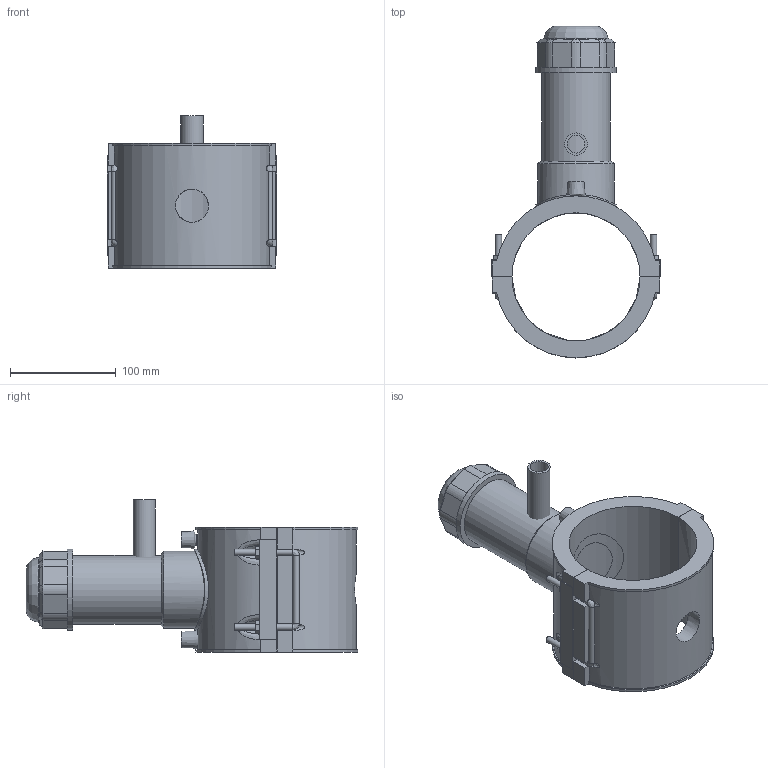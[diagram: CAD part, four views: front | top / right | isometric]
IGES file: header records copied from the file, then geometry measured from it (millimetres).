
Global section: file name: 5963DBP3040005.ipt; native system: Autodesk Inventor 2019; preprocessor: unknown; author: KIM; date: 20210830.101635; units: inch
Bounding box: 161 x 314.4 x 144.15 mm (x, y, z)
Volume: 1146366.7 mm3; surface area: 217626.6 mm2
Topology: 4 solids, 4 shells, 194 faces, 481 edges, 312 vertices
Faces by surface type: plane 118, cylinder 36, revolution 21, cone 15, bspline 4
Full cylindrical faces by diameter (mm): 4 x2, 6 x8, 21.2 x1, 61.135 x1, 64.956 x1, 72.598 x1, 76.419 x2
